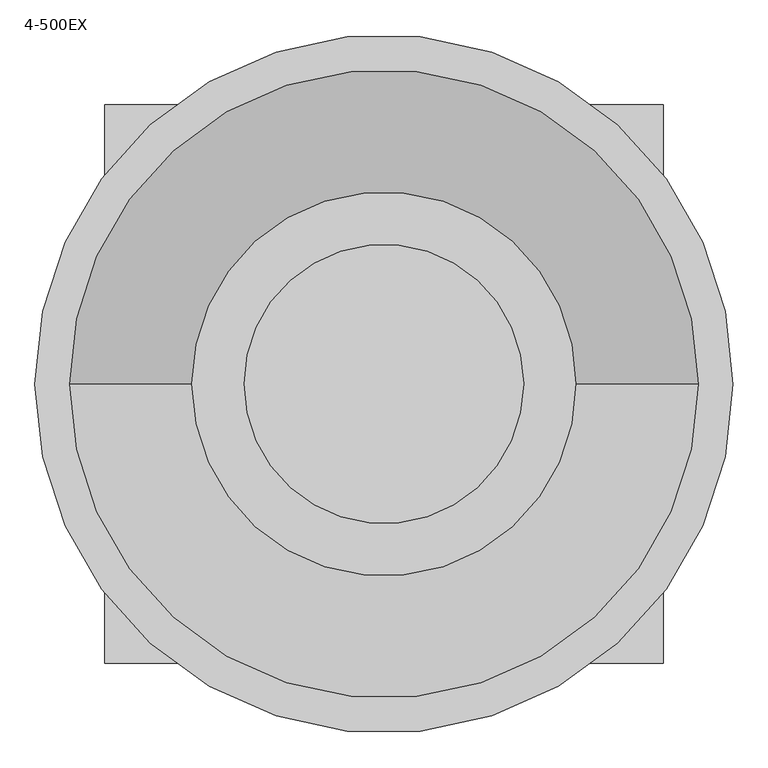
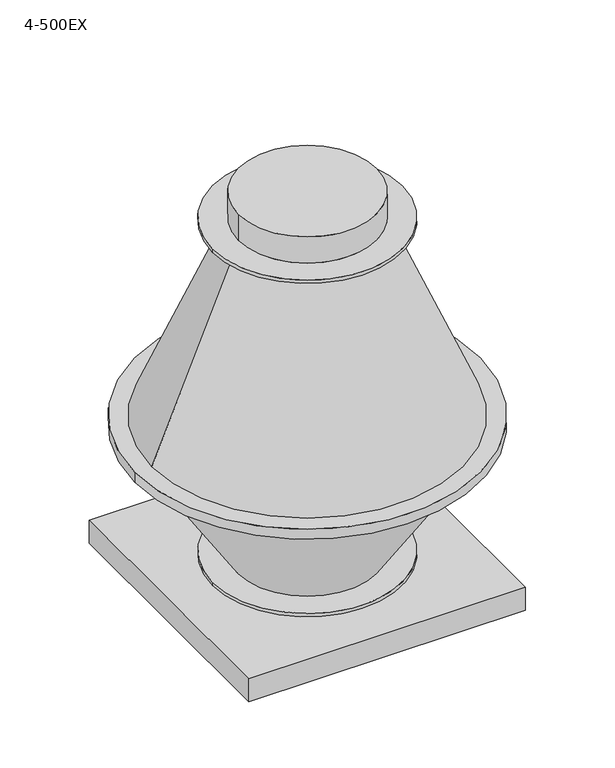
"""IFC4 building model written with IfcOpenShell, lengths in millimetres: unitary equipment geometry, VE-Wentylator-ParaForma-Harmann-VITT_EX-Wywiewny : 4-500EX."""

from ifc_helpers import new_model, si_unit, point, frame, origin, origin_2d, place, context, project, spatial, polyline, circle_curve, trimmed, segment, composite_curve, outline, extrude, faceted_brep, source, transform, mapped, element, save
from ifc_brep_helpers import plane_surface, cylinder_surface, revolved_surface, advanced_brep


def unitary_equipment_4_500ex_db1ee456(model_context):
    return source(origin(), model_context, "Body", "SolidModel", [
        advanced_brep(
        [(-275.0, 0.0, 25.0), (275.0, 0.0, 25.0), (-275.0, 0.0, 35.0), (275.0, 0.0, 35.0), (200.0, 0.0, 35.0), (-200.0, 0.0, 35.0), (-450.0, 0.0, 420.0), (450.0, 0.0, 420.0)],
        [
            (0, 1, circle_curve(frame((0.0, 0.0, 25.0), z_axis=(0.0, 0.0, -1.0), x_axis=(1.0, 0.0, 0.0)), 275.0)),
            (1, 0, circle_curve(frame((0.0, 0.0, 25.0), z_axis=(0.0, 0.0, -1.0), x_axis=(1.0, 0.0, 0.0)), 275.0)),
            (2, 3, circle_curve(frame((0.0, 0.0, 35.0), z_axis=(0.0, 0.0, 1.0), x_axis=(1.0, 0.0, 0.0)), 275.0)),
            (3, 2, circle_curve(frame((0.0, 0.0, 35.0), z_axis=(0.0, 0.0, 1.0), x_axis=(1.0, 0.0, 0.0)), 275.0)),
            (4, 5, circle_curve(frame((0.0, 0.0, 35.0), z_axis=(0.0, 0.0, -1.0), x_axis=(-1.0, 0.0, 0.0)), 200.0)),
            (5, 4, circle_curve(frame((0.0, 0.0, 35.0), z_axis=(0.0, 0.0, -1.0), x_axis=(1.0, 0.0, 0.0)), 200.0)),
            (6, 7, circle_curve(frame((0.0, 0.0, 420.0), z_axis=(0.0, 0.0, 1.0), x_axis=(-1.0, 0.0, 0.0)), 450.0)),
            (7, 6, circle_curve(frame((0.0, 0.0, 420.0), z_axis=(0.0, 0.0, 1.0), x_axis=(1.0, 0.0, 0.0)), 450.0)),
            (6, 5),
            (4, 7),
            (0, 2),
            (3, 1),
        ],
        [
            plane_surface(frame((0.0, 0.0, 25.0), z_axis=(0.0, 0.0, -1.0), x_axis=(0.0, 1.0, 0.0))),
            plane_surface(frame((0.0, 0.0, 35.0), z_axis=(0.0, 0.0, 1.0), x_axis=(0.0, 1.0, 0.0))),
            plane_surface(frame((0.0, 0.0, 420.0), z_axis=(0.0, 0.0, 1.0), x_axis=(0.0, -1.0, 0.0))),
            revolved_surface(polyline([(200.0, 0.0, 35.0), (450.0, 0.0, 420.0)]), (0.0, 0.0, -273.0), (0.0, 0.0, 1.0)),
            revolved_surface(polyline([(-200.0, 0.0, 35.0), (-450.0, 0.0, 420.0)]), (0.0, 0.0, -273.0), (0.0, 0.0, 1.0)),
            cylinder_surface(frame((0.0, 0.0, 25.0), z_axis=(0.0, 0.0, -1.0), x_axis=(1.0, 0.0, 0.0)), 275.0),
        ],
        [
            (0, [[1, 2]]),
            (1, [[3, 4], [5, 6]]),
            (2, [[7, 8]]),
            (3, [[-7, 9, -5, 10]]),
            (4, [[-8, -10, -6, -9]]),
            (5, [[-1, 11, -4, 12]]),
            (5, [[-2, -12, -3, -11]]),
        ],
    ),
        advanced_brep(
        [(-450.0, 0.0, 450.0), (450.0, 0.0, 450.0), (200.0, 0.0, 1045.0), (-200.0, 0.0, 1045.0), (-275.0, 0.0, 1045.0), (275.0, 0.0, 1045.0), (-275.0, 0.0, 1055.0), (275.0, 0.0, 1055.0), (-200.0, 0.0, 1055.0), (200.0, 0.0, 1055.0), (-200.0, 0.0, 1135.0), (200.0, 0.0, 1135.0)],
        [
            (0, 1, circle_curve(frame((0.0, 0.0, 450.0), z_axis=(0.0, 0.0, -1.0), x_axis=(1.0, 0.0, 0.0)), 450.0)),
            (1, 0, circle_curve(frame((0.0, 0.0, 450.0), z_axis=(0.0, 0.0, -1.0), x_axis=(-1.0, 0.0, 0.0)), 450.0)),
            (1, 2),
            (2, 3, circle_curve(frame((0.0, 0.0, 1045.0), z_axis=(0.0, 0.0, -1.0), x_axis=(-1.0, 0.0, 0.0)), 200.0)),
            (3, 0),
            (3, 2, circle_curve(frame((0.0, 0.0, 1045.0), z_axis=(0.0, 0.0, -1.0), x_axis=(1.0, 0.0, 0.0)), 200.0)),
            (4, 5, circle_curve(frame((0.0, 0.0, 1045.0), z_axis=(0.0, 0.0, -1.0), x_axis=(1.0, 0.0, 0.0)), 275.0)),
            (5, 4, circle_curve(frame((0.0, 0.0, 1045.0), z_axis=(0.0, 0.0, -1.0), x_axis=(1.0, 0.0, 0.0)), 275.0)),
            (6, 7, circle_curve(frame((0.0, 0.0, 1055.0), z_axis=(0.0, 0.0, 1.0), x_axis=(1.0, 0.0, 0.0)), 275.0)),
            (7, 6, circle_curve(frame((0.0, 0.0, 1055.0), z_axis=(0.0, 0.0, 1.0), x_axis=(1.0, 0.0, 0.0)), 275.0)),
            (8, 9, circle_curve(frame((0.0, 0.0, 1055.0), z_axis=(0.0, 0.0, -1.0), x_axis=(1.0, 0.0, 0.0)), 200.0)),
            (9, 8, circle_curve(frame((0.0, 0.0, 1055.0), z_axis=(0.0, 0.0, -1.0), x_axis=(1.0, 0.0, 0.0)), 200.0)),
            (4, 6),
            (7, 5),
            (10, 11, circle_curve(frame((0.0, 0.0, 1135.0), z_axis=(0.0, 0.0, 1.0), x_axis=(1.0, 0.0, 0.0)), 200.0)),
            (11, 10, circle_curve(frame((0.0, 0.0, 1135.0), z_axis=(0.0, 0.0, 1.0), x_axis=(1.0, 0.0, 0.0)), 200.0)),
            (11, 9),
            (8, 10),
        ],
        [
            plane_surface(frame((0.0, 0.0, 450.0), z_axis=(0.0, 0.0, -1.0), x_axis=(0.0, -1.0, 0.0))),
            revolved_surface(polyline([(-200.0, 0.0, 1045.0), (-450.0, 0.0, 450.0)]), (0.0, 0.0, 1521.0), (0.0, 0.0, -1.0)),
            revolved_surface(polyline([(200.0, 0.0, 1045.0), (450.0, 0.0, 450.0)]), (0.0, 0.0, 1521.0), (0.0, 0.0, -1.0)),
            plane_surface(frame((0.0, 0.0, 1045.0), z_axis=(0.0, 0.0, -1.0), x_axis=(0.0, 1.0, 0.0))),
            plane_surface(frame((0.0, 0.0, 1055.0), z_axis=(0.0, 0.0, 1.0), x_axis=(0.0, 1.0, 0.0))),
            cylinder_surface(frame((0.0, 0.0, 1045.0), z_axis=(0.0, 0.0, -1.0), x_axis=(1.0, 0.0, 0.0)), 275.0),
            plane_surface(frame((0.0, 0.0, 1135.0), z_axis=(0.0, 0.0, 1.0), x_axis=(0.0, 1.0, 0.0))),
            cylinder_surface(frame((0.0, 0.0, 1055.0), z_axis=(0.0, 0.0, -1.0), x_axis=(1.0, 0.0, 0.0)), 200.0),
        ],
        [
            (0, [[1, 2]]),
            (1, [[-2, 3, 4, 5]]),
            (2, [[-1, -5, 6, -3]]),
            (3, [[7, 8], [-4, -6]]),
            (4, [[9, 10], [11, 12]]),
            (5, [[-7, 13, -10, 14]]),
            (5, [[-8, -14, -9, -13]]),
            (6, [[15, 16]]),
            (7, [[-16, 17, -11, 18]]),
            (7, [[-15, -18, -12, -17]]),
        ],
    ),
        faceted_brep([(375.0, -375.0, -45.0), (375.0, -375.0, 0.0), (375.0, 375.0, 0.0), (375.0, 375.0, -45.0), (400.0, -400.0, 25.0), (400.0, -400.0, -45.0), (400.0, 400.0, -45.0), (400.0, 400.0, 25.0), (-375.0, 375.0, 0.0), (-375.0, 375.0, -45.0), (-400.0, 400.0, -45.0), (-400.0, 400.0, 25.0), (-375.0, -375.0, 0.0), (-375.0, -375.0, -45.0), (-400.0, -400.0, -45.0), (-400.0, -400.0, 25.0)], [[[0, 1, 2, 3]], [[4, 5, 6, 7]], [[3, 2, 8, 9]], [[7, 6, 10, 11]], [[9, 8, 12, 13]], [[11, 10, 14, 15]], [[7, 11, 15, 4]], [[1, 12, 8, 2]], [[13, 12, 1, 0]], [[5, 14, 10, 6], [3, 9, 13, 0]], [[15, 14, 5, 4]]]),
        extrude(outline(composite_curve([segment(trimmed(circle_curve(origin_2d(), 500.0), [point((-500.0, 0.0))], [point((500.0, 0.0))], False, "CARTESIAN"), True, "CONTINUOUS"), segment(trimmed(circle_curve(origin_2d(), 500.0), [point((500.0, 0.0))], [point((-500.0, 0.0))], False, "CARTESIAN"), True, "CONTINUOUS")], self_intersect=False)), frame((0.0, 0.0, 420.0), z_axis=(0.0, 0.0, 1.0), x_axis=(1.0, 0.0, 0.0)), (0.0, 0.0, 1.0), 30.0),
    ])


if __name__ == "__main__":
    model = new_model("IFC4")
    model_context = context("Model", 3, world=origin())
    ifc_project = project(units=[si_unit("LENGTHUNIT", "METRE", prefix="MILLI")], contexts=[model_context])
    site = spatial("IfcSite", under=ifc_project)
    building = spatial("IfcBuilding", under=site)
    placement = place(None, origin())
    unitary_equipment_4_500ex_shape = unitary_equipment_4_500ex_db1ee456(model_context)
    element("IfcUnitaryEquipment", 1, ObjectType="VE-Wentylator-ParaForma-Harmann-VITT_EX-Wywiewny : 4-500EX", at=placement, inside=building, context=model_context, shape_type="MappedRepresentation", body=[
        mapped(unitary_equipment_4_500ex_shape, transform((0.0, 0.0, 0.0), x_axis=(1.0, 0.0, 0.0), y_axis=(0.0, 1.0, 0.0), z_axis=(0.0, 0.0, 1.0))),
    ])
    save(model, "model.ifc")
